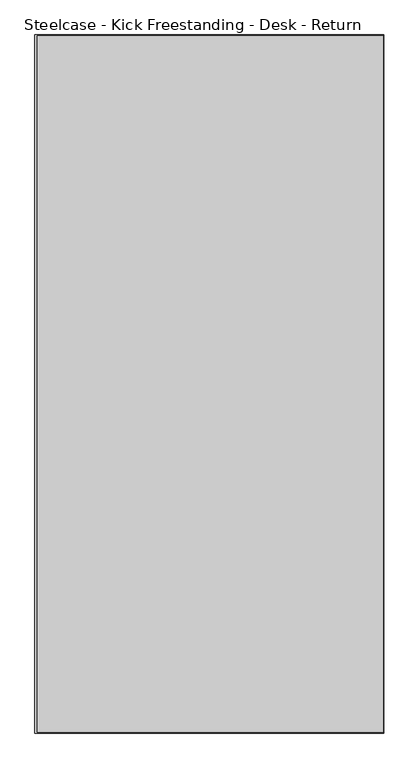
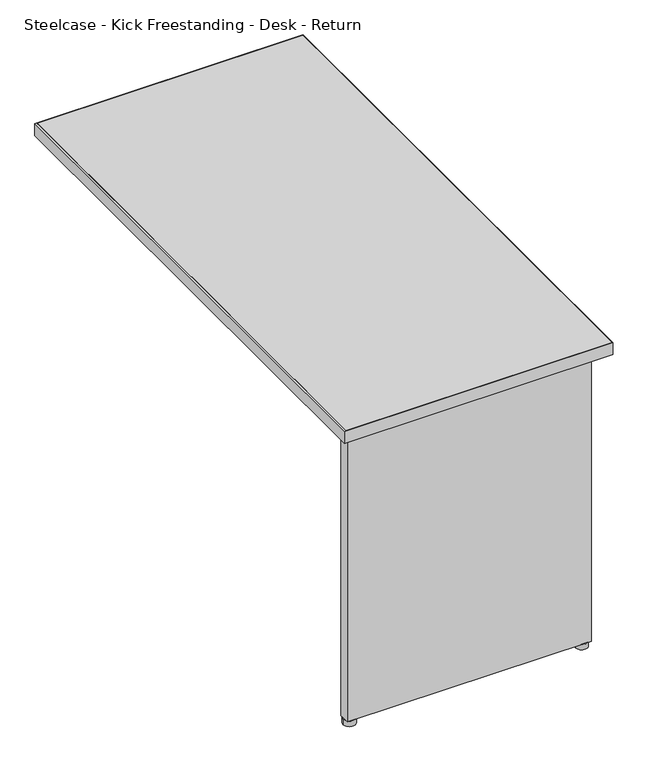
"""IFC4 building model written with IfcOpenShell, lengths in millimetres: furniture geometry, Steelcase - Kick Freestanding - Desk - Return : 24D x 48W - Right."""

from ifc_helpers import new_model, si_unit, point, frame, frame_2d, origin, origin_with_axes, place, context, project, spatial, polyline, circle_curve, trimmed, segment, composite_curve, outline, extrude, source, transform, mapped, element, save


def steelcase_kick_freestanding_desk_return_952f5e50(model_context):
    return source(origin(), model_context, "Body", "SweptSolid", [
        extrude(outline(composite_curve([segment(trimmed(circle_curve(frame_2d((2107.4714425, -1740.6145152)), 13.97), [point((2121.4414425, -1740.6145152))], [point((2093.5014425, -1740.6145152))], False, "CARTESIAN"), True, "CONTINUOUS"), segment(trimmed(circle_curve(frame_2d((2107.4714425, -1740.6145152)), 13.97), [point((2093.5014425, -1740.6145152))], [point((2121.4414425, -1740.6145152))], False, "CARTESIAN"), True, "CONTINUOUS")], self_intersect=False)), origin_with_axes(), (0.0, 0.0, 1.0), 12.7),
        extrude(outline(composite_curve([segment(trimmed(circle_curve(frame_2d((1579.6594425, -1740.6145152)), 13.97), [point((1593.6294425, -1740.6145152))], [point((1565.6894425, -1740.6145152))], False, "CARTESIAN"), True, "CONTINUOUS"), segment(trimmed(circle_curve(frame_2d((1579.6594425, -1740.6145152)), 13.97), [point((1565.6894425, -1740.6145152))], [point((1593.6294425, -1740.6145152))], False, "CARTESIAN"), True, "CONTINUOUS")], self_intersect=False)), origin_with_axes(), (0.0, 0.0, 1.0), 12.7),
        extrude(outline(polyline([(2122.7114425, -1728.0669152), (2122.7114425, -1752.5525098), (1568.2294473, -1752.5525098), (1568.2294473, -1728.0669041), (1691.2670317, -1728.0669041), (1691.2670317, -1750.4951136), (1790.9874347, -1750.4951136), (1790.9874347, -1728.0669041), (1899.7248382, -1728.0669041), (1899.7248382, -1750.4951136), (1999.4452412, -1750.4951136), (1999.4452412, -1728.0669152), (2122.7114425, -1728.0669152)])), frame((0.0, 0.0, 12.7), z_axis=(0.0, 0.0, 1.0), x_axis=(1.0, 0.0, 0.0)), (0.0, 0.0, 1.0), 682.244),
        extrude(outline(polyline([(1558.5012257, -548.0845152), (2162.8688425, -548.0845152), (2162.8688425, -1764.7445152), (1558.5012257, -1764.7445152), (1558.5012257, -548.0845152)])), frame((0.0, 0.0, 694.944), z_axis=(0.0, 0.0, 1.0), x_axis=(1.0, 0.0, 0.0)), (0.0, 0.0, 1.0), 28.956),
        extrude(outline(polyline([(1554.2594425, -546.8145152), (2163.8594425, -546.8145152), (2163.8594425, -1766.0145152), (1554.2594425, -1766.0145152), (1554.2594425, -546.8145152)]), holes=[polyline([(1558.5012257, -548.0845152), (1558.5012257, -1764.7445152), (2162.8688425, -1764.7445152), (2162.8688425, -548.0845152), (1558.5012257, -548.0845152)])]), frame((0.0, 0.0, 694.944), z_axis=(0.0, 0.0, 1.0), x_axis=(1.0, 0.0, 0.0)), (0.0, 0.0, 1.0), 28.956),
    ])


if __name__ == "__main__":
    model = new_model("IFC4")
    model_context = context("Model", 3, world=origin())
    ifc_project = project(units=[si_unit("LENGTHUNIT", "METRE", prefix="MILLI")], contexts=[model_context])
    site = spatial("IfcSite", under=ifc_project)
    building = spatial("IfcBuilding", under=site)
    placement = place(None, origin())
    steelcase_kick_freestanding_desk_return_shape = steelcase_kick_freestanding_desk_return_952f5e50(model_context)
    element("IfcFurniture", 1, ObjectType="Steelcase - Kick Freestanding - Desk - Return : 24D x 48W - Right", at=placement, inside=building, context=model_context, shape_type="MappedRepresentation", body=[
        mapped(steelcase_kick_freestanding_desk_return_shape, transform((0.0, 0.0, 0.0), x_axis=(1.0, 0.0, 0.0), y_axis=(0.0, 1.0, 0.0), z_axis=(0.0, 0.0, 1.0))),
    ])
    save(model, "model.ifc")
